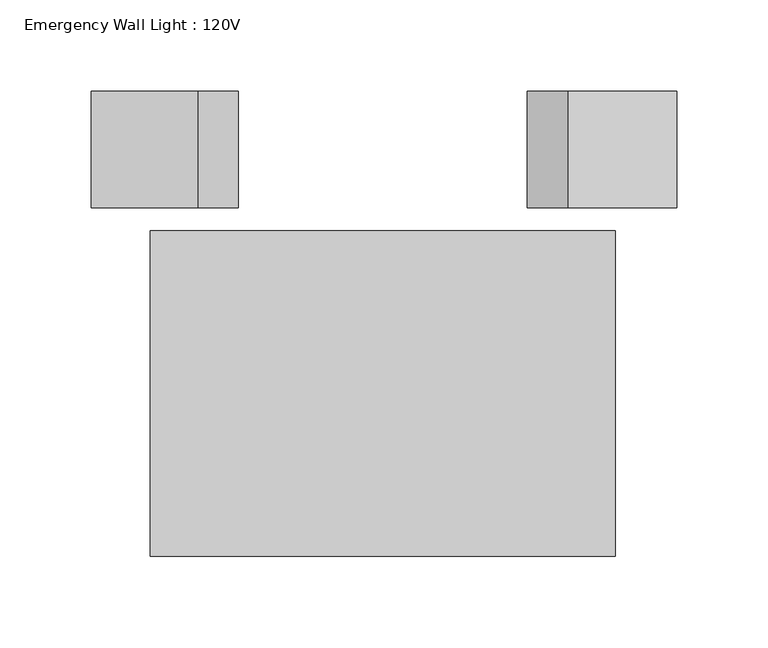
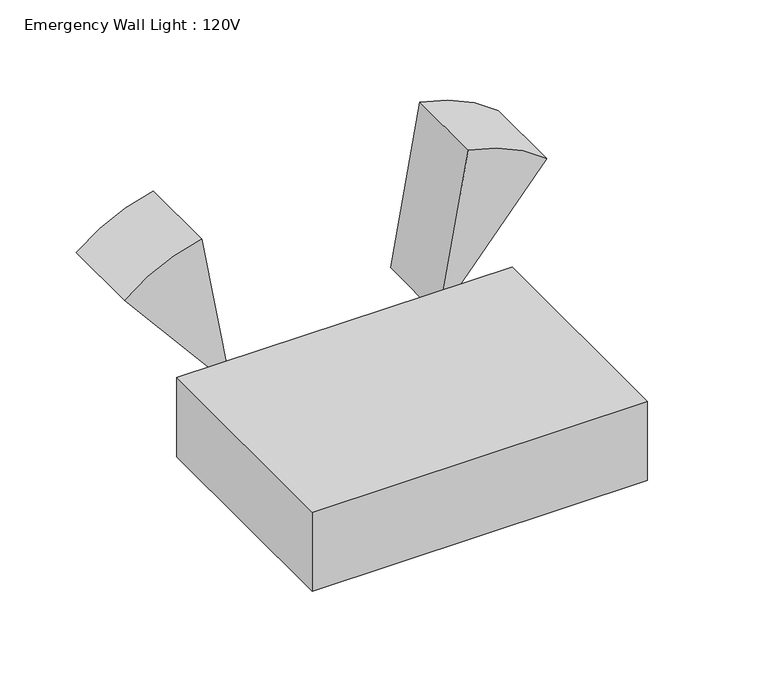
"""IFC4 building model written with IfcOpenShell, lengths in millimetres: light fixture geometry, Emergency Wall Light : 120V."""

from ifc_helpers import new_model, si_unit, point, frame, frame_2d, origin, origin_with_axes, place, context, project, spatial, polyline, circle_curve, trimmed, segment, composite_curve, outline, extrude, source, transform, mapped, element, save


def emergency_wall_light_120v_37438f40(model_context):
    return source(origin(), model_context, "Body", "SweptSolid", [
        extrude(outline(composite_curve([segment(polyline([(129.0379638, -159.2803489), (33.3375, -78.978125), (157.8249108, -100.9286143)]), True, "CONTINUOUS"), segment(trimmed(circle_curve(frame_2d((33.3375, -75.7913004)), 127.0), [point((157.8249108, -100.9286143))], [point((129.0379638, -159.2803489))], False, "CARTESIAN"), True, "CONTINUOUS")], self_intersect=False)), frame((0.0, 101.6, 0.0), z_axis=(0.0, 1.0, 0.0), x_axis=(0.0, 0.0, 1.0)), (0.0, 0.0, 1.0), 63.5),
        extrude(outline(composite_curve([segment(trimmed(circle_curve(frame_2d((33.3375, 78.978125)), 127.0), [point((130.6251443, 160.6121514))], [point((158.4080846, 101.0314436))], False, "CARTESIAN"), True, "CONTINUOUS"), segment(polyline([(158.4080846, 101.0314436), (33.3375, 78.978125), (130.6251443, 160.6121514)]), True, "CONTINUOUS")], self_intersect=False)), frame((0.0, 101.6, 0.0), z_axis=(0.0, 1.0, 0.0), x_axis=(0.0, 0.0, 1.0)), (0.0, 0.0, 1.0), 63.5),
        extrude(outline(polyline([(127.0, 88.9), (127.0, -88.9), (-127.0, -88.9), (-127.0, 88.9), (127.0, 88.9)])), origin_with_axes(), (0.0, 0.0, 1.0), 63.5),
    ])


if __name__ == "__main__":
    model = new_model("IFC4")
    model_context = context("Model", 3, world=origin())
    ifc_project = project(units=[si_unit("LENGTHUNIT", "METRE", prefix="MILLI")], contexts=[model_context])
    site = spatial("IfcSite", under=ifc_project)
    building = spatial("IfcBuilding", under=site)
    placement = place(None, origin())
    emergency_wall_light_120v_shape = emergency_wall_light_120v_37438f40(model_context)
    element("IfcLightFixture", 1, ObjectType="Emergency Wall Light : 120V", at=placement, inside=building, context=model_context, shape_type="MappedRepresentation", body=[
        mapped(emergency_wall_light_120v_shape, transform((0.0, 0.0, 0.0), x_axis=(1.0, 0.0, 0.0), y_axis=(0.0, 1.0, 0.0), z_axis=(0.0, 0.0, 1.0))),
    ])
    save(model, "model.ifc")
